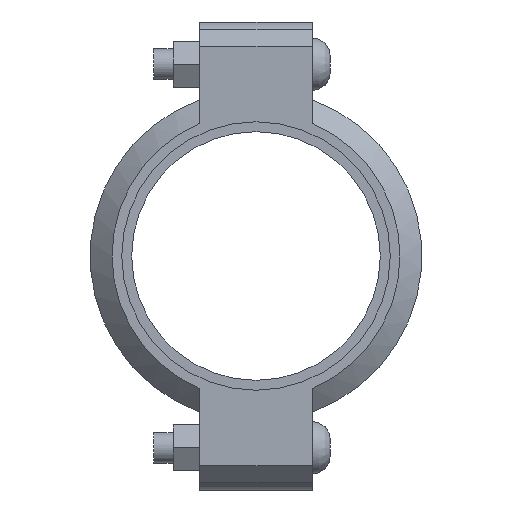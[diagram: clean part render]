
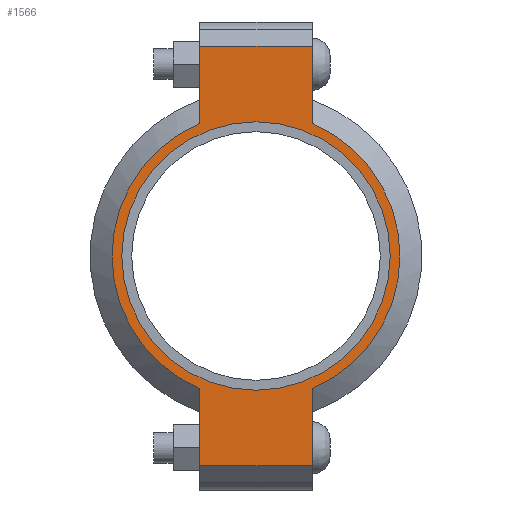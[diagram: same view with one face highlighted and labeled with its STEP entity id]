
A CAD part, left-side view. The second image highlights one B-rep face of the part: STEP entity #1566.
In plain terms, the highlighted planar face has unit normal (-1, 0, 0) as drawn and (0, 0, 1) by its records, which use the part's own axes.
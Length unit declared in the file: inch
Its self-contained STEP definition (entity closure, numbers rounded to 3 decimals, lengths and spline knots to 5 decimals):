
#190=LINE('',#2733,#283);
#198=LINE('',#2769,#291);
#205=LINE('',#2790,#298);
#214=LINE('',#2822,#307);
#215=LINE('',#2826,#308);
#216=LINE('',#2828,#309);
#283=VECTOR('',#2225,0.3937);
#291=VECTOR('',#2241,0.3937);
#298=VECTOR('',#2260,0.3937);
#307=VECTOR('',#2285,0.3937);
#308=VECTOR('',#2290,0.3937);
#309=VECTOR('',#2291,0.3937);
#365=FACE_BOUND('',#543,.T.);
#437=FACE_OUTER_BOUND('',#542,.T.);
#542=EDGE_LOOP('',(#1307,#1308,#1309,#1310,#1311,#1312,#1313,#1314));
#543=EDGE_LOOP('',(#1315));
#615=CIRCLE('',#1785,2.75);
#641=CIRCLE('',#1844,2.95);
#642=CIRCLE('',#1845,2.95);
#707=VERTEX_POINT('',#2549);
#750=VERTEX_POINT('',#2730);
#751=VERTEX_POINT('',#2732);
#762=VERTEX_POINT('',#2764);
#763=VERTEX_POINT('',#2768);
#770=VERTEX_POINT('',#2787);
#771=VERTEX_POINT('',#2789);
#781=VERTEX_POINT('',#2825);
#782=VERTEX_POINT('',#2827);
#863=EDGE_CURVE('',#707,#707,#615,.T.);
#924=EDGE_CURVE('',#751,#750,#190,.T.);
#938=EDGE_CURVE('',#763,#762,#198,.T.);
#948=EDGE_CURVE('',#771,#770,#205,.T.);
#963=EDGE_CURVE('',#763,#750,#214,.T.);
#964=EDGE_CURVE('',#762,#771,#641,.T.);
#965=EDGE_CURVE('',#781,#770,#215,.T.);
#966=EDGE_CURVE('',#781,#782,#216,.T.);
#967=EDGE_CURVE('',#782,#751,#642,.T.);
#1307=ORIENTED_EDGE('',*,*,#963,.F.);
#1308=ORIENTED_EDGE('',*,*,#938,.T.);
#1309=ORIENTED_EDGE('',*,*,#964,.T.);
#1310=ORIENTED_EDGE('',*,*,#948,.T.);
#1311=ORIENTED_EDGE('',*,*,#965,.F.);
#1312=ORIENTED_EDGE('',*,*,#966,.T.);
#1313=ORIENTED_EDGE('',*,*,#967,.T.);
#1314=ORIENTED_EDGE('',*,*,#924,.T.);
#1315=ORIENTED_EDGE('',*,*,#863,.T.);
#1408=PLANE('',#1843);
#1566=ADVANCED_FACE('',(#437,#365),#1408,.T.);
#1785=AXIS2_PLACEMENT_3D('',#2551,#2101,#2102);
#1843=AXIS2_PLACEMENT_3D('',#2823,#2286,#2287);
#1844=AXIS2_PLACEMENT_3D('',#2824,#2288,#2289);
#1845=AXIS2_PLACEMENT_3D('',#2829,#2292,#2293);
#2101=DIRECTION('center_axis',(0.,0.,-1.));
#2102=DIRECTION('ref_axis',(-1.,0.,0.));
#2225=DIRECTION('',(-1.,0.,0.));
#2241=DIRECTION('',(1.,0.,0.));
#2260=DIRECTION('',(1.,0.,0.));
#2285=DIRECTION('',(0.,1.,0.));
#2286=DIRECTION('center_axis',(0.,0.,1.));
#2287=DIRECTION('ref_axis',(1.,0.,0.));
#2288=DIRECTION('center_axis',(0.,0.,1.));
#2289=DIRECTION('ref_axis',(-1.,0.,0.));
#2290=DIRECTION('',(0.,-1.,0.));
#2291=DIRECTION('',(-1.,0.,0.));
#2292=DIRECTION('center_axis',(0.,0.,1.));
#2293=DIRECTION('ref_axis',(-1.,0.,0.));
#2549=CARTESIAN_POINT('',(2.75,0.,1.065));
#2551=CARTESIAN_POINT('Origin',(0.,0.,1.065));
#2730=CARTESIAN_POINT('',(-4.295,1.15,1.065));
#2732=CARTESIAN_POINT('',(-2.71662,1.15,1.065));
#2733=CARTESIAN_POINT('',(-4.795,1.15,1.065));
#2764=CARTESIAN_POINT('',(-2.71662,-1.15,1.065));
#2768=CARTESIAN_POINT('',(-4.295,-1.15,1.065));
#2769=CARTESIAN_POINT('',(4.795,-1.15,1.065));
#2787=CARTESIAN_POINT('',(4.295,-1.15,1.065));
#2789=CARTESIAN_POINT('',(2.71662,-1.15,1.065));
#2790=CARTESIAN_POINT('',(4.795,-1.15,1.065));
#2822=CARTESIAN_POINT('',(-4.295,0.575,1.065));
#2823=CARTESIAN_POINT('Origin',(0.,0.,1.065));
#2824=CARTESIAN_POINT('Origin',(0.,0.,1.065));
#2825=CARTESIAN_POINT('',(4.295,1.15,1.065));
#2826=CARTESIAN_POINT('',(4.295,-0.575,1.065));
#2827=CARTESIAN_POINT('',(2.71662,1.15,1.065));
#2828=CARTESIAN_POINT('',(-4.795,1.15,1.065));
#2829=CARTESIAN_POINT('Origin',(0.,0.,1.065));
